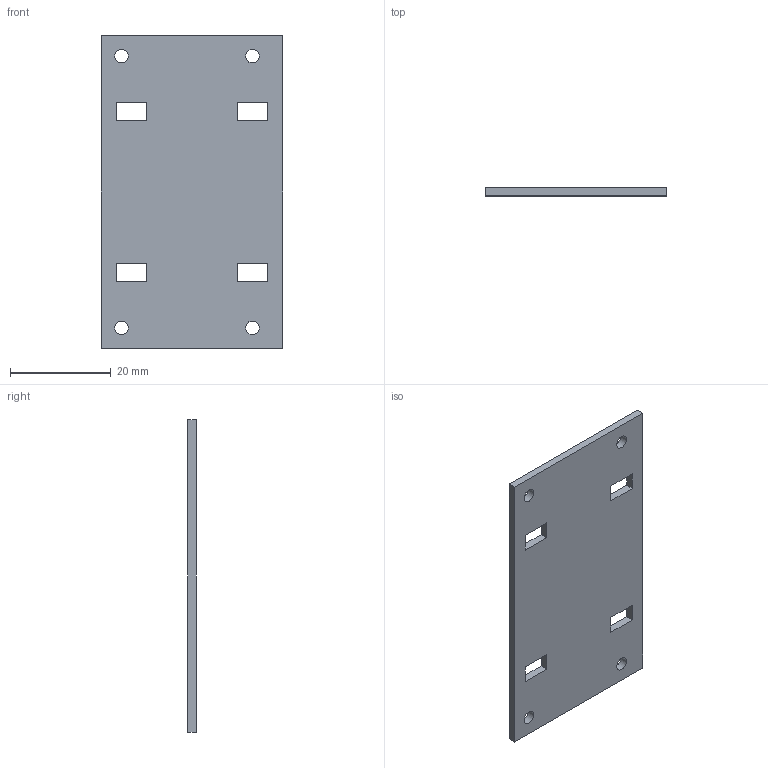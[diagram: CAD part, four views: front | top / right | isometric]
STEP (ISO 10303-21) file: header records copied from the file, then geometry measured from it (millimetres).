
FILE_DESCRIPTION(('Open CASCADE Model'),'2;1');
FILE_NAME('Open CASCADE Shape Model','2026-08-16T15:13:29',('Author'),( 'Open CASCADE'),'Open CASCADE STEP processor 7.9','Open CASCADE 7.9' ,'Unknown');
FILE_SCHEMA(('AUTOMOTIVE_DESIGN { 1 0 10303 214 1 1 1 1 }'));
Length unit declared in the file: millimetre
Products named in the file (1): Open CASCADE STEP translator 7.9 6
Bounding box: 36 x 1.6 x 62 mm (x, y, z)
Volume: 3396.3 mm3; surface area: 4736.2 mm2
Topology: 1 solids, 1 shells, 26 faces, 72 edges, 48 vertices
Faces by surface type: plane 22, cylinder 4
Full cylindrical faces by diameter (mm): 2.7 x4
Entity records: 1738 total; most frequent: CARTESIAN_POINT 355, DIRECTION 214, ORIENTED_EDGE 144, PCURVE 144, DEFINITIONAL_REPRESENTATION 144, LINE 136, VECTOR 136, EDGE_CURVE 72
